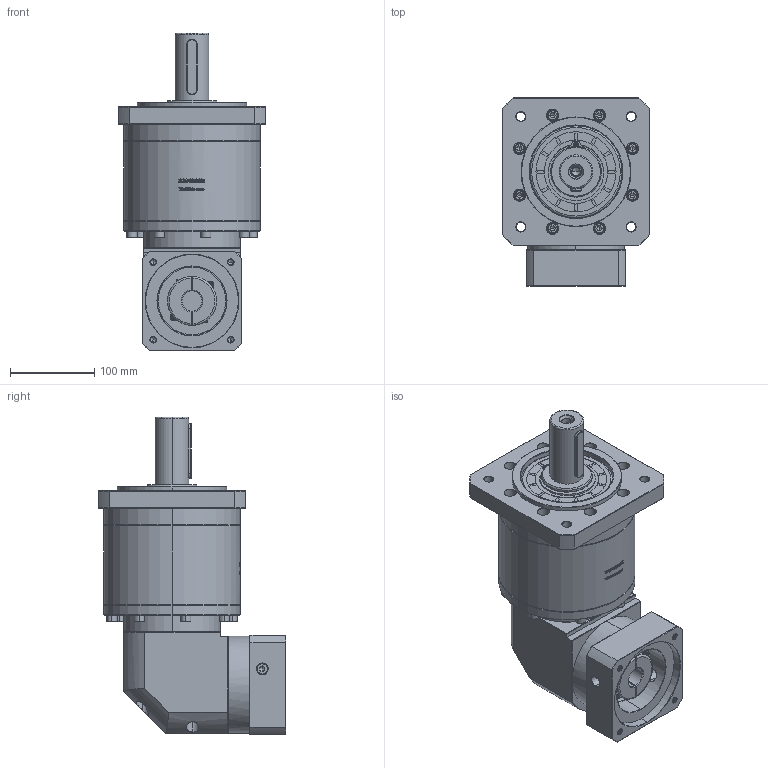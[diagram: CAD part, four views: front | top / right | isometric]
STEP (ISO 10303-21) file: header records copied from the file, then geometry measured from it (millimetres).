
FILE_DESCRIPTION (( 'STEP AP214' ), '1' );
FILE_NAME ('ZFR160A-D40-L3-24-110-130-M8.step', '2023-03-25T01:57:14', ( '' ), ( '' ), 'SwSTEP 2.0', 'SolidWorks 2016', '' );
FILE_SCHEMA (( 'AUTOMOTIVE_DESIGN' ));
Length unit declared in the file: millimetre
Products named in the file (1): ZFR160A-D40-L3-24-110-130-M8
Bounding box: 175 x 222.4 x 376.2 mm (x, y, z)
Volume: 5618648.4 mm3; surface area: 359799.1 mm2
Topology: 6 solids, 6 shells, 2783 faces, 7268 edges, 4658 vertices
Faces by surface type: plane 1373, bspline 497, cylinder 496, cone 371, torus 46
Entity records: 150170 total; most frequent: CARTESIAN_POINT 55536, ORIENTED_EDGE 14428, DIRECTION 11403, EDGE_CURVE 7214, VERTEX_POINT 4658, LINE 4503, VECTOR 4503, AXIS2_PLACEMENT_3D 3450
